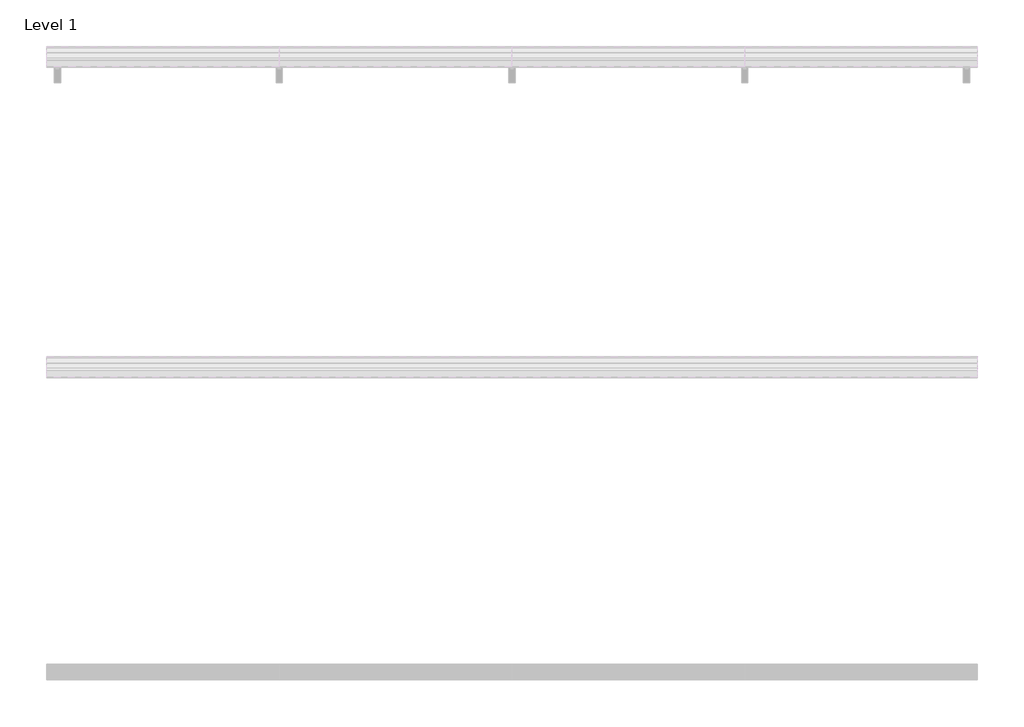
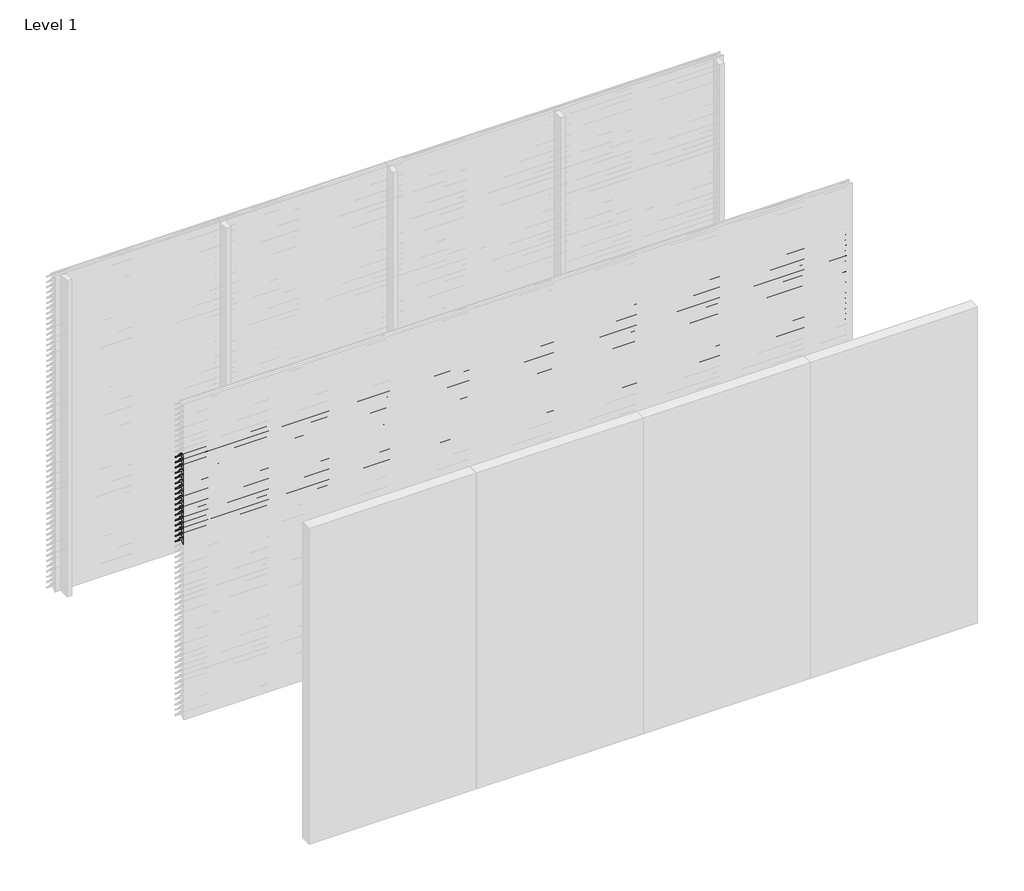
# One storey, part 55 of 173: 17 proxies.
"""IFC4 building model written with IfcOpenShell, lengths in millimetres."""

import ifcopenshell
import ifcopenshell.guid

model = None  # the IFC model being written
_history = None  # IfcOwnerHistory: only IFC2X3 demands one
_inside = {}  # id of a spatial element -> (the spatial element, [elements in it])
_under = {}  # id of a project, library or spatial element -> (it, [spatial elements below it])
_declared = {}  # id of a project -> (the project, [libraries it declares])
_typed = {}  # id of a type object -> (the type object, [elements of that type])
_made_of = {}  # id of a material, layer set ... -> (it, [elements and type objects made of it])


def new_model(schema):
    """Start an empty IFC model of exactly this schema.

    Asked for "IFC4X3", IfcOpenShell would pick the latest addendum, in which some entities
    have other attributes; the version numbers below select the first issue.
    IFC2X3 requires an IfcOwnerHistory on every rooted entity: one is made here for all.
    """
    global model, _history
    if schema == "IFC4X3":
        model = ifcopenshell.file(schema_version=(4, 3, 0, 0))
    else:
        model = ifcopenshell.file(schema=schema)
    _inside.clear()
    _under.clear()
    _declared.clear()
    _typed.clear()
    _made_of.clear()
    _history = None
    if model.schema == "IFC2X3":
        org = make("IfcOrganization", Name="unknown")
        user = make(
            "IfcPersonAndOrganization",
            ThePerson=make("IfcPerson", FamilyName="unknown"),
            TheOrganization=org,
        )
        app = make(
            "IfcApplication",
            ApplicationDeveloper=org,
            Version="unknown",
            ApplicationFullName="unknown",
            ApplicationIdentifier="unknown",
        )
        _history = make(
            "IfcOwnerHistory",
            OwningUser=user,
            OwningApplication=app,
            ChangeAction="ADDED",
            CreationDate=0,
        )
    return model


def make(cls, **values):
    """One entity of the class cls with the attributes given. An attribute that is None is left unset."""
    return model.create_entity(
        cls, **{name: value for name, value in values.items() if value is not None}
    )


def rooted(cls, **values):
    """An entity with a GlobalId (a new one), such as an element, a storey or a relation."""
    return make(cls, GlobalId=ifcopenshell.guid.new(), OwnerHistory=_history, **values)


def si_unit(unit_type, name, prefix=None):
    """IfcSIUnit, for example si_unit("LENGTHUNIT", "METRE", prefix="MILLI")."""
    return make("IfcSIUnit", UnitType=unit_type, Prefix=prefix, Name=name)


def assignment(units):
    """IfcUnitAssignment: the units of a project."""
    return None if units is None else make("IfcUnitAssignment", Units=units)


def point(xyz):
    """IfcCartesianPoint."""
    return None if xyz is None else make("IfcCartesianPoint", Coordinates=xyz)


def direction(xyz):
    """IfcDirection."""
    return None if xyz is None else make("IfcDirection", DirectionRatios=xyz)


def frame(location, z_axis=None, x_axis=None):
    """IfcAxis2Placement3D, a coordinate frame: its origin and axes. An axis left out is left unset."""
    return make(
        "IfcAxis2Placement3D",
        Location=point(location),
        Axis=direction(z_axis),
        RefDirection=direction(x_axis),
    )


def frame_2d(location, x_axis=None):
    """IfcAxis2Placement2D, a coordinate frame in the plane: its origin and x axis."""
    return make(
        "IfcAxis2Placement2D", Location=point(location), RefDirection=direction(x_axis)
    )


def origin():
    """The frame at (0, 0, 0) with its axes left unset."""
    return frame((0.0, 0.0, 0.0))


def place(relative_to, where):
    """IfcLocalPlacement: puts the frame where relative to a parent placement (None: the world)."""
    return make(
        "IfcLocalPlacement", PlacementRelTo=relative_to, RelativePlacement=where
    )


def context(
    kind, dimensions, precision=None, world=None, true_north=None, identifier=None
):
    """IfcGeometricRepresentationContext, for example the 3D "Model" context."""
    return make(
        "IfcGeometricRepresentationContext",
        ContextIdentifier=identifier,
        ContextType=kind,
        CoordinateSpaceDimension=dimensions,
        Precision=precision,
        WorldCoordinateSystem=world,
        TrueNorth=true_north,
    )


def project(units=None, contexts=None):
    """IfcProject with its units and contexts."""
    return rooted(
        "IfcProject",
        Name="project",
        RepresentationContexts=contexts,
        UnitsInContext=assignment(units),
    )


def spatial(cls, under=None, at=None, **own):
    """A site, building, storey or space (cls), placed at a placement, below another one or the project."""
    s = rooted(cls, ObjectPlacement=at, **own)
    if under is not None:
        _under.setdefault(under.id(), (under, []))[1].append(s)
    return s


def polyline(points):
    """IfcPolyline through the points."""
    return make("IfcPolyline", Points=[point(p) for p in points])


def circle_curve(where, radius):
    """IfcCircle in the frame where."""
    return make("IfcCircle", Position=where, Radius=radius)


def trimmed(basis, trim1, trim2, sense, master):
    """IfcTrimmedCurve: the piece of a basis curve between two trims."""
    return make(
        "IfcTrimmedCurve",
        BasisCurve=basis,
        Trim1=trim1,
        Trim2=trim2,
        SenseAgreement=sense,
        MasterRepresentation=master,
    )


def segment(curve, same_sense, transition):
    """IfcCompositeCurveSegment."""
    return make(
        "IfcCompositeCurveSegment",
        Transition=transition,
        SameSense=same_sense,
        ParentCurve=curve,
    )


def composite_curve(segments, self_intersect=None):
    """IfcCompositeCurve: segments joined end to end."""
    return make("IfcCompositeCurve", Segments=segments, SelfIntersect=self_intersect)


def outline(outer, holes=None, kind="AREA"):
    """IfcArbitraryClosedProfileDef: a profile drawn as a closed curve; with holes, ...WithVoids."""
    if holes is None:
        return make("IfcArbitraryClosedProfileDef", ProfileType=kind, OuterCurve=outer)
    return make(
        "IfcArbitraryProfileDefWithVoids",
        ProfileType=kind,
        OuterCurve=outer,
        InnerCurves=holes,
    )


def extrude(swept, where, along, depth):
    """IfcExtrudedAreaSolid: the profile swept, set in the frame where, extruded along a direction by depth."""
    return make(
        "IfcExtrudedAreaSolid",
        SweptArea=swept,
        Position=where,
        ExtrudedDirection=direction(along),
        Depth=depth,
    )


def shape(context_of_items, identifier, shape_type, items):
    """IfcShapeRepresentation: the items that make up one representation, for example the "Body"."""
    return make(
        "IfcShapeRepresentation",
        ContextOfItems=context_of_items,
        RepresentationIdentifier=identifier,
        RepresentationType=shape_type,
        Items=items,
    )


def made_of(thing, what):
    """Note that an element or type object is made of a material, layer set ...; save() writes the relation."""
    if what is not None:
        _made_of.setdefault(what.id(), (what, []))[1].append(thing)
    return thing


def element(
    cls,
    number,
    at=None,
    inside=None,
    cuts=None,
    type_object=None,
    material=None,
    context=None,
    identifier="Body",
    shape_type=None,
    held_by="IfcProductDefinitionShape",
    body=None,
    shapes=None,
    **own,
):
    """One element of the class cls, such as IfcWall. Its Tag is "e" and its number.

    at: its placement. inside: the storey or other place that contains it. cuts: it is an
    opening in that element (IfcRelVoidsElement). A single representation is given by context,
    identifier, shape_type and body (its items); several are given by shapes. held_by: the class
    of the entity that holds the representations. save() writes the other relations.
    """
    e = rooted(cls, Tag="e%d" % number, ObjectPlacement=at, **own)
    if body is not None:
        shapes = [shape(context, identifier, shape_type, body)]
    if shapes is not None:
        e.Representation = make(held_by, Representations=shapes)
    if inside is not None:
        _inside.setdefault(inside.id(), (inside, []))[1].append(e)
    if cuts is not None:
        rooted(
            "IfcRelVoidsElement", RelatingBuildingElement=cuts, RelatedOpeningElement=e
        )
    if type_object is not None:
        _typed.setdefault(type_object.id(), (type_object, []))[1].append(e)
    return made_of(e, material)


def aggregate(whole, parts):
    """IfcRelAggregates: a whole, such as a stair, and the parts it consists of."""
    return rooted("IfcRelAggregates", RelatingObject=whole, RelatedObjects=parts)


def save(model, path):
    """Write the relations noted so far, then the file.

    IfcRelAggregates (storeys below a building ...), IfcRelContainedInSpatialStructure (elements
    in a storey), IfcRelDefinesByType, IfcRelAssociatesMaterial and IfcRelDeclares: one each for
    every whole, place, type object, material and project.
    """
    for whole, parts in _under.values():
        aggregate(whole, parts)
    for where, things in _inside.values():
        rooted(
            "IfcRelContainedInSpatialStructure",
            RelatedElements=things,
            RelatingStructure=where,
        )
    for kind, things in _typed.values():
        rooted("IfcRelDefinesByType", RelatedObjects=things, RelatingType=kind)
    for what, things in _made_of.values():
        rooted("IfcRelAssociatesMaterial", RelatedObjects=things, RelatingMaterial=what)
    for by, libraries in _declared.values():
        rooted("IfcRelDeclares", RelatingContext=by, RelatedDefinitions=libraries)
    model.write(path)


model = new_model("IFC4")

# Units and contexts
model_context = context("Model", 3, world=origin())
ifc_project = project(units=[si_unit("LENGTHUNIT", "METRE", prefix="MILLI")], contexts=[model_context])

# Site, building, storey
site = spatial("IfcSite", under=ifc_project)
building = spatial("IfcBuilding", under=site)
storey = spatial("IfcBuildingStorey", under=building, Name="Level 1", Elevation=0.0)

# Proxies
placement = place(None, origin())
element("IfcBuildingElementProxy", 1, Name="Wall Sweeps", at=placement, inside=storey, context=model_context, shape_type="SweptSolid", body=[
    extrude(outline(composite_curve([segment(polyline([(-37998.0, 2459.1474905), (-37998.0, 2461.6227417)]), True, "CONTINUOUS"), segment(trimmed(circle_curve(frame_2d((-37951.2682172, 2416.2200208)), 65.1557103), [point((-37998.0, 2461.6227417))], [point((-37954.4014323, 2481.3003524))], False, "CARTESIAN"), True, "CONTINUOUS"), segment(polyline([(-37954.4014323, 2481.3003524), (-37934.8315836, 2481.3003524)]), True, "CONTINUOUS"), segment(trimmed(circle_curve(frame_2d((-37732.7329489, 2628.5533172)), 250.0545817), [point((-37934.8315836, 2481.3003524))], [point((-37941.4452143, 2490.8344583))], False, "CARTESIAN"), True, "CONTINUOUS"), segment(trimmed(circle_curve(frame_2d((-37953.2981792, 2485.1737835)), 13.1352966), [point((-37941.4452143, 2490.8344583))], [point((-37953.8171475, 2498.298824))], True, "CARTESIAN"), True, "CONTINUOUS"), segment(polyline([(-37953.8171475, 2498.298824), (-37953.8171475, 2500.0)]), True, "CONTINUOUS"), segment(trimmed(circle_curve(frame_2d((-37953.2981792, 2485.1737835)), 14.8352966), [point((-37953.8171475, 2500.0))], [point((-37939.9637661, 2491.6760487))], False, "CARTESIAN"), True, "CONTINUOUS"), segment(trimmed(circle_curve(frame_2d((-37732.7329489, 2628.5533172)), 248.3545817), [point((-37939.9637661, 2491.6760487))], [point((-37873.8787895, 2424.2059416))], True, "CARTESIAN"), True, "CONTINUOUS"), segment(trimmed(circle_curve(frame_2d((-37883.8147537, 2411.6649442)), 16.0), [point((-37873.8787895, 2424.2059416))], [point((-37867.8648347, 2410.4))], False, "CARTESIAN"), True, "CONTINUOUS"), segment(polyline([(-37867.8648347, 2410.4), (-37869.6712069, 2410.4)]), True, "CONTINUOUS"), segment(trimmed(circle_curve(frame_2d((-37883.8147537, 2411.6649442)), 14.2), [point((-37869.6712069, 2410.4))], [point((-37874.9518628, 2422.7594998))], True, "CARTESIAN"), True, "CONTINUOUS"), segment(trimmed(circle_curve(frame_2d((-37732.7329489, 2628.5533172)), 250.1545817), [point((-37874.9518628, 2422.7594998))], [point((-37933.7064024, 2479.6003524))], False, "CARTESIAN"), True, "CONTINUOUS"), segment(polyline([(-37933.7064024, 2479.6003524), (-37954.3602632, 2479.6003524)]), True, "CONTINUOUS"), segment(trimmed(circle_curve(frame_2d((-37951.2682172, 2416.2200208)), 63.4557103), [point((-37954.3602632, 2479.6003524))], [point((-37998.0, 2459.1474905))], True, "CARTESIAN"), True, "CONTINUOUS")], self_intersect=False)), frame((0.0, 0.0, 0.0), z_axis=(1.0, 0.0, 0.0), x_axis=(0.0, 1.0, 0.0)), (0.0, 0.0, 1.0), 6000.0),
])
element("IfcBuildingElementProxy", 2, Name="Wall Sweeps", at=placement, inside=storey, context=model_context, shape_type="SweptSolid", body=[
    extrude(outline(composite_curve([segment(polyline([(-37998.0, 2409.1474905), (-37998.0, 2411.6227417)]), True, "CONTINUOUS"), segment(trimmed(circle_curve(frame_2d((-37951.2682172, 2366.2200208)), 65.1557103), [point((-37998.0, 2411.6227417))], [point((-37954.4014323, 2431.3003524))], False, "CARTESIAN"), True, "CONTINUOUS"), segment(polyline([(-37954.4014323, 2431.3003524), (-37934.8315836, 2431.3003524)]), True, "CONTINUOUS"), segment(trimmed(circle_curve(frame_2d((-37732.7329489, 2578.5533172)), 250.0545817), [point((-37934.8315836, 2431.3003524))], [point((-37941.4452143, 2440.8344583))], False, "CARTESIAN"), True, "CONTINUOUS"), segment(trimmed(circle_curve(frame_2d((-37953.2981792, 2435.1737835)), 13.1352966), [point((-37941.4452143, 2440.8344583))], [point((-37953.8171475, 2448.298824))], True, "CARTESIAN"), True, "CONTINUOUS"), segment(polyline([(-37953.8171475, 2448.298824), (-37953.8171475, 2450.0)]), True, "CONTINUOUS"), segment(trimmed(circle_curve(frame_2d((-37953.2981792, 2435.1737835)), 14.8352966), [point((-37953.8171475, 2450.0))], [point((-37939.9637661, 2441.6760487))], False, "CARTESIAN"), True, "CONTINUOUS"), segment(trimmed(circle_curve(frame_2d((-37732.7329489, 2578.5533172)), 248.3545817), [point((-37939.9637661, 2441.6760487))], [point((-37873.8787895, 2374.2059416))], True, "CARTESIAN"), True, "CONTINUOUS"), segment(trimmed(circle_curve(frame_2d((-37883.8147537, 2361.6649442)), 16.0), [point((-37873.8787895, 2374.2059416))], [point((-37867.8648347, 2360.4))], False, "CARTESIAN"), True, "CONTINUOUS"), segment(polyline([(-37867.8648347, 2360.4), (-37869.6712069, 2360.4)]), True, "CONTINUOUS"), segment(trimmed(circle_curve(frame_2d((-37883.8147537, 2361.6649442)), 14.2), [point((-37869.6712069, 2360.4))], [point((-37874.9518628, 2372.7594998))], True, "CARTESIAN"), True, "CONTINUOUS"), segment(trimmed(circle_curve(frame_2d((-37732.7329489, 2578.5533172)), 250.1545817), [point((-37874.9518628, 2372.7594998))], [point((-37933.7064024, 2429.6003524))], False, "CARTESIAN"), True, "CONTINUOUS"), segment(polyline([(-37933.7064024, 2429.6003524), (-37954.3602632, 2429.6003524)]), True, "CONTINUOUS"), segment(trimmed(circle_curve(frame_2d((-37951.2682172, 2366.2200208)), 63.4557103), [point((-37954.3602632, 2429.6003524))], [point((-37998.0, 2409.1474905))], True, "CARTESIAN"), True, "CONTINUOUS")], self_intersect=False)), frame((0.0, 0.0, 0.0), z_axis=(1.0, 0.0, 0.0), x_axis=(0.0, 1.0, 0.0)), (0.0, 0.0, 1.0), 6000.0),
])
element("IfcBuildingElementProxy", 3, Name="Wall Sweeps", at=placement, inside=storey, context=model_context, shape_type="SweptSolid", body=[
    extrude(outline(composite_curve([segment(polyline([(-37998.0, 2359.1474905), (-37998.0, 2361.6227417)]), True, "CONTINUOUS"), segment(trimmed(circle_curve(frame_2d((-37951.2682172, 2316.2200208)), 65.1557103), [point((-37998.0, 2361.6227417))], [point((-37954.4014323, 2381.3003524))], False, "CARTESIAN"), True, "CONTINUOUS"), segment(polyline([(-37954.4014323, 2381.3003524), (-37934.8315836, 2381.3003524)]), True, "CONTINUOUS"), segment(trimmed(circle_curve(frame_2d((-37732.7329489, 2528.5533172)), 250.0545817), [point((-37934.8315836, 2381.3003524))], [point((-37941.4452143, 2390.8344583))], False, "CARTESIAN"), True, "CONTINUOUS"), segment(trimmed(circle_curve(frame_2d((-37953.2981792, 2385.1737835)), 13.1352966), [point((-37941.4452143, 2390.8344583))], [point((-37953.8171475, 2398.298824))], True, "CARTESIAN"), True, "CONTINUOUS"), segment(polyline([(-37953.8171475, 2398.298824), (-37953.8171475, 2400.0)]), True, "CONTINUOUS"), segment(trimmed(circle_curve(frame_2d((-37953.2981792, 2385.1737835)), 14.8352966), [point((-37953.8171475, 2400.0))], [point((-37939.9637661, 2391.6760487))], False, "CARTESIAN"), True, "CONTINUOUS"), segment(trimmed(circle_curve(frame_2d((-37732.7329489, 2528.5533172)), 248.3545817), [point((-37939.9637661, 2391.6760487))], [point((-37873.8787895, 2324.2059416))], True, "CARTESIAN"), True, "CONTINUOUS"), segment(trimmed(circle_curve(frame_2d((-37883.8147537, 2311.6649442)), 16.0), [point((-37873.8787895, 2324.2059416))], [point((-37867.8648347, 2310.4))], False, "CARTESIAN"), True, "CONTINUOUS"), segment(polyline([(-37867.8648347, 2310.4), (-37869.6712069, 2310.4)]), True, "CONTINUOUS"), segment(trimmed(circle_curve(frame_2d((-37883.8147537, 2311.6649442)), 14.2), [point((-37869.6712069, 2310.4))], [point((-37874.9518628, 2322.7594998))], True, "CARTESIAN"), True, "CONTINUOUS"), segment(trimmed(circle_curve(frame_2d((-37732.7329489, 2528.5533172)), 250.1545817), [point((-37874.9518628, 2322.7594998))], [point((-37933.7064024, 2379.6003524))], False, "CARTESIAN"), True, "CONTINUOUS"), segment(polyline([(-37933.7064024, 2379.6003524), (-37954.3602632, 2379.6003524)]), True, "CONTINUOUS"), segment(trimmed(circle_curve(frame_2d((-37951.2682172, 2316.2200208)), 63.4557103), [point((-37954.3602632, 2379.6003524))], [point((-37998.0, 2359.1474905))], True, "CARTESIAN"), True, "CONTINUOUS")], self_intersect=False)), frame((0.0, 0.0, 0.0), z_axis=(1.0, 0.0, 0.0), x_axis=(0.0, 1.0, 0.0)), (0.0, 0.0, 1.0), 6000.0),
])
element("IfcBuildingElementProxy", 4, Name="Wall Sweeps", at=placement, inside=storey, context=model_context, shape_type="SweptSolid", body=[
    extrude(outline(composite_curve([segment(polyline([(-37998.0, 2309.1474905), (-37998.0, 2311.6227417)]), True, "CONTINUOUS"), segment(trimmed(circle_curve(frame_2d((-37951.2682172, 2266.2200208)), 65.1557103), [point((-37998.0, 2311.6227417))], [point((-37954.4014323, 2331.3003524))], False, "CARTESIAN"), True, "CONTINUOUS"), segment(polyline([(-37954.4014323, 2331.3003524), (-37934.8315836, 2331.3003524)]), True, "CONTINUOUS"), segment(trimmed(circle_curve(frame_2d((-37732.7329489, 2478.5533172)), 250.0545817), [point((-37934.8315836, 2331.3003524))], [point((-37941.4452143, 2340.8344583))], False, "CARTESIAN"), True, "CONTINUOUS"), segment(trimmed(circle_curve(frame_2d((-37953.2981792, 2335.1737835)), 13.1352966), [point((-37941.4452143, 2340.8344583))], [point((-37953.8171475, 2348.298824))], True, "CARTESIAN"), True, "CONTINUOUS"), segment(polyline([(-37953.8171475, 2348.298824), (-37953.8171475, 2350.0)]), True, "CONTINUOUS"), segment(trimmed(circle_curve(frame_2d((-37953.2981792, 2335.1737835)), 14.8352966), [point((-37953.8171475, 2350.0))], [point((-37939.9637661, 2341.6760487))], False, "CARTESIAN"), True, "CONTINUOUS"), segment(trimmed(circle_curve(frame_2d((-37732.7329489, 2478.5533172)), 248.3545817), [point((-37939.9637661, 2341.6760487))], [point((-37873.8787895, 2274.2059416))], True, "CARTESIAN"), True, "CONTINUOUS"), segment(trimmed(circle_curve(frame_2d((-37883.8147537, 2261.6649442)), 16.0), [point((-37873.8787895, 2274.2059416))], [point((-37867.8648347, 2260.4))], False, "CARTESIAN"), True, "CONTINUOUS"), segment(polyline([(-37867.8648347, 2260.4), (-37869.6712069, 2260.4)]), True, "CONTINUOUS"), segment(trimmed(circle_curve(frame_2d((-37883.8147537, 2261.6649442)), 14.2), [point((-37869.6712069, 2260.4))], [point((-37874.9518628, 2272.7594998))], True, "CARTESIAN"), True, "CONTINUOUS"), segment(trimmed(circle_curve(frame_2d((-37732.7329489, 2478.5533172)), 250.1545817), [point((-37874.9518628, 2272.7594998))], [point((-37933.7064024, 2329.6003524))], False, "CARTESIAN"), True, "CONTINUOUS"), segment(polyline([(-37933.7064024, 2329.6003524), (-37954.3602632, 2329.6003524)]), True, "CONTINUOUS"), segment(trimmed(circle_curve(frame_2d((-37951.2682172, 2266.2200208)), 63.4557103), [point((-37954.3602632, 2329.6003524))], [point((-37998.0, 2309.1474905))], True, "CARTESIAN"), True, "CONTINUOUS")], self_intersect=False)), frame((0.0, 0.0, 0.0), z_axis=(1.0, 0.0, 0.0), x_axis=(0.0, 1.0, 0.0)), (0.0, 0.0, 1.0), 6000.0),
])
element("IfcBuildingElementProxy", 5, Name="Wall Sweeps", at=placement, inside=storey, context=model_context, shape_type="SweptSolid", body=[
    extrude(outline(composite_curve([segment(polyline([(-37998.0, 2259.1474905), (-37998.0, 2261.6227417)]), True, "CONTINUOUS"), segment(trimmed(circle_curve(frame_2d((-37951.2682172, 2216.2200208)), 65.1557103), [point((-37998.0, 2261.6227417))], [point((-37954.4014323, 2281.3003524))], False, "CARTESIAN"), True, "CONTINUOUS"), segment(polyline([(-37954.4014323, 2281.3003524), (-37934.8315836, 2281.3003524)]), True, "CONTINUOUS"), segment(trimmed(circle_curve(frame_2d((-37732.7329489, 2428.5533172)), 250.0545817), [point((-37934.8315836, 2281.3003524))], [point((-37941.4452143, 2290.8344583))], False, "CARTESIAN"), True, "CONTINUOUS"), segment(trimmed(circle_curve(frame_2d((-37953.2981792, 2285.1737835)), 13.1352966), [point((-37941.4452143, 2290.8344583))], [point((-37953.8171475, 2298.298824))], True, "CARTESIAN"), True, "CONTINUOUS"), segment(polyline([(-37953.8171475, 2298.298824), (-37953.8171475, 2300.0)]), True, "CONTINUOUS"), segment(trimmed(circle_curve(frame_2d((-37953.2981792, 2285.1737835)), 14.8352966), [point((-37953.8171475, 2300.0))], [point((-37939.9637661, 2291.6760487))], False, "CARTESIAN"), True, "CONTINUOUS"), segment(trimmed(circle_curve(frame_2d((-37732.7329489, 2428.5533172)), 248.3545817), [point((-37939.9637661, 2291.6760487))], [point((-37873.8787895, 2224.2059416))], True, "CARTESIAN"), True, "CONTINUOUS"), segment(trimmed(circle_curve(frame_2d((-37883.8147537, 2211.6649442)), 16.0), [point((-37873.8787895, 2224.2059416))], [point((-37867.8648347, 2210.4))], False, "CARTESIAN"), True, "CONTINUOUS"), segment(polyline([(-37867.8648347, 2210.4), (-37869.6712069, 2210.4)]), True, "CONTINUOUS"), segment(trimmed(circle_curve(frame_2d((-37883.8147537, 2211.6649442)), 14.2), [point((-37869.6712069, 2210.4))], [point((-37874.9518628, 2222.7594998))], True, "CARTESIAN"), True, "CONTINUOUS"), segment(trimmed(circle_curve(frame_2d((-37732.7329489, 2428.5533172)), 250.1545817), [point((-37874.9518628, 2222.7594998))], [point((-37933.7064024, 2279.6003524))], False, "CARTESIAN"), True, "CONTINUOUS"), segment(polyline([(-37933.7064024, 2279.6003524), (-37954.3602632, 2279.6003524)]), True, "CONTINUOUS"), segment(trimmed(circle_curve(frame_2d((-37951.2682172, 2216.2200208)), 63.4557103), [point((-37954.3602632, 2279.6003524))], [point((-37998.0, 2259.1474905))], True, "CARTESIAN"), True, "CONTINUOUS")], self_intersect=False)), frame((0.0, 0.0, 0.0), z_axis=(1.0, 0.0, 0.0), x_axis=(0.0, 1.0, 0.0)), (0.0, 0.0, 1.0), 6000.0),
])
element("IfcBuildingElementProxy", 6, Name="Wall Sweeps", at=placement, inside=storey, context=model_context, shape_type="SweptSolid", body=[
    extrude(outline(composite_curve([segment(polyline([(-37998.0, 2209.1474905), (-37998.0, 2211.6227417)]), True, "CONTINUOUS"), segment(trimmed(circle_curve(frame_2d((-37951.2682172, 2166.2200208)), 65.1557103), [point((-37998.0, 2211.6227417))], [point((-37954.4014323, 2231.3003524))], False, "CARTESIAN"), True, "CONTINUOUS"), segment(polyline([(-37954.4014323, 2231.3003524), (-37934.8315836, 2231.3003524)]), True, "CONTINUOUS"), segment(trimmed(circle_curve(frame_2d((-37732.7329489, 2378.5533172)), 250.0545817), [point((-37934.8315836, 2231.3003524))], [point((-37941.4452143, 2240.8344583))], False, "CARTESIAN"), True, "CONTINUOUS"), segment(trimmed(circle_curve(frame_2d((-37953.2981792, 2235.1737835)), 13.1352966), [point((-37941.4452143, 2240.8344583))], [point((-37953.8171475, 2248.298824))], True, "CARTESIAN"), True, "CONTINUOUS"), segment(polyline([(-37953.8171475, 2248.298824), (-37953.8171475, 2250.0)]), True, "CONTINUOUS"), segment(trimmed(circle_curve(frame_2d((-37953.2981792, 2235.1737835)), 14.8352966), [point((-37953.8171475, 2250.0))], [point((-37939.9637661, 2241.6760487))], False, "CARTESIAN"), True, "CONTINUOUS"), segment(trimmed(circle_curve(frame_2d((-37732.7329489, 2378.5533172)), 248.3545817), [point((-37939.9637661, 2241.6760487))], [point((-37873.8787895, 2174.2059416))], True, "CARTESIAN"), True, "CONTINUOUS"), segment(trimmed(circle_curve(frame_2d((-37883.8147537, 2161.6649442)), 16.0), [point((-37873.8787895, 2174.2059416))], [point((-37867.8648347, 2160.4))], False, "CARTESIAN"), True, "CONTINUOUS"), segment(polyline([(-37867.8648347, 2160.4), (-37869.6712069, 2160.4)]), True, "CONTINUOUS"), segment(trimmed(circle_curve(frame_2d((-37883.8147537, 2161.6649442)), 14.2), [point((-37869.6712069, 2160.4))], [point((-37874.9518628, 2172.7594998))], True, "CARTESIAN"), True, "CONTINUOUS"), segment(trimmed(circle_curve(frame_2d((-37732.7329489, 2378.5533172)), 250.1545817), [point((-37874.9518628, 2172.7594998))], [point((-37933.7064024, 2229.6003524))], False, "CARTESIAN"), True, "CONTINUOUS"), segment(polyline([(-37933.7064024, 2229.6003524), (-37954.3602632, 2229.6003524)]), True, "CONTINUOUS"), segment(trimmed(circle_curve(frame_2d((-37951.2682172, 2166.2200208)), 63.4557103), [point((-37954.3602632, 2229.6003524))], [point((-37998.0, 2209.1474905))], True, "CARTESIAN"), True, "CONTINUOUS")], self_intersect=False)), frame((0.0, 0.0, 0.0), z_axis=(1.0, 0.0, 0.0), x_axis=(0.0, 1.0, 0.0)), (0.0, 0.0, 1.0), 6000.0),
])
element("IfcBuildingElementProxy", 7, Name="Wall Sweeps", at=placement, inside=storey, context=model_context, shape_type="SweptSolid", body=[
    extrude(outline(composite_curve([segment(polyline([(-37998.0, 2159.1474905), (-37998.0, 2161.6227417)]), True, "CONTINUOUS"), segment(trimmed(circle_curve(frame_2d((-37951.2682172, 2116.2200208)), 65.1557103), [point((-37998.0, 2161.6227417))], [point((-37954.4014323, 2181.3003524))], False, "CARTESIAN"), True, "CONTINUOUS"), segment(polyline([(-37954.4014323, 2181.3003524), (-37934.8315836, 2181.3003524)]), True, "CONTINUOUS"), segment(trimmed(circle_curve(frame_2d((-37732.7329489, 2328.5533172)), 250.0545817), [point((-37934.8315836, 2181.3003524))], [point((-37941.4452143, 2190.8344583))], False, "CARTESIAN"), True, "CONTINUOUS"), segment(trimmed(circle_curve(frame_2d((-37953.2981792, 2185.1737835)), 13.1352966), [point((-37941.4452143, 2190.8344583))], [point((-37953.8171475, 2198.298824))], True, "CARTESIAN"), True, "CONTINUOUS"), segment(polyline([(-37953.8171475, 2198.298824), (-37953.8171475, 2200.0)]), True, "CONTINUOUS"), segment(trimmed(circle_curve(frame_2d((-37953.2981792, 2185.1737835)), 14.8352966), [point((-37953.8171475, 2200.0))], [point((-37939.9637661, 2191.6760487))], False, "CARTESIAN"), True, "CONTINUOUS"), segment(trimmed(circle_curve(frame_2d((-37732.7329489, 2328.5533172)), 248.3545817), [point((-37939.9637661, 2191.6760487))], [point((-37873.8787895, 2124.2059416))], True, "CARTESIAN"), True, "CONTINUOUS"), segment(trimmed(circle_curve(frame_2d((-37883.8147537, 2111.6649442)), 16.0), [point((-37873.8787895, 2124.2059416))], [point((-37867.8648347, 2110.4))], False, "CARTESIAN"), True, "CONTINUOUS"), segment(polyline([(-37867.8648347, 2110.4), (-37869.6712069, 2110.4)]), True, "CONTINUOUS"), segment(trimmed(circle_curve(frame_2d((-37883.8147537, 2111.6649442)), 14.2), [point((-37869.6712069, 2110.4))], [point((-37874.9518628, 2122.7594998))], True, "CARTESIAN"), True, "CONTINUOUS"), segment(trimmed(circle_curve(frame_2d((-37732.7329489, 2328.5533172)), 250.1545817), [point((-37874.9518628, 2122.7594998))], [point((-37933.7064024, 2179.6003524))], False, "CARTESIAN"), True, "CONTINUOUS"), segment(polyline([(-37933.7064024, 2179.6003524), (-37954.3602632, 2179.6003524)]), True, "CONTINUOUS"), segment(trimmed(circle_curve(frame_2d((-37951.2682172, 2116.2200208)), 63.4557103), [point((-37954.3602632, 2179.6003524))], [point((-37998.0, 2159.1474905))], True, "CARTESIAN"), True, "CONTINUOUS")], self_intersect=False)), frame((0.0, 0.0, 0.0), z_axis=(1.0, 0.0, 0.0), x_axis=(0.0, 1.0, 0.0)), (0.0, 0.0, 1.0), 6000.0),
])
element("IfcBuildingElementProxy", 8, Name="Wall Sweeps", at=placement, inside=storey, context=model_context, shape_type="SweptSolid", body=[
    extrude(outline(composite_curve([segment(polyline([(-37998.0, 2109.1474905), (-37998.0, 2111.6227417)]), True, "CONTINUOUS"), segment(trimmed(circle_curve(frame_2d((-37951.2682172, 2066.2200208)), 65.1557103), [point((-37998.0, 2111.6227417))], [point((-37954.4014323, 2131.3003524))], False, "CARTESIAN"), True, "CONTINUOUS"), segment(polyline([(-37954.4014323, 2131.3003524), (-37934.8315836, 2131.3003524)]), True, "CONTINUOUS"), segment(trimmed(circle_curve(frame_2d((-37732.7329489, 2278.5533172)), 250.0545817), [point((-37934.8315836, 2131.3003524))], [point((-37941.4452143, 2140.8344583))], False, "CARTESIAN"), True, "CONTINUOUS"), segment(trimmed(circle_curve(frame_2d((-37953.2981792, 2135.1737835)), 13.1352966), [point((-37941.4452143, 2140.8344583))], [point((-37953.8171475, 2148.298824))], True, "CARTESIAN"), True, "CONTINUOUS"), segment(polyline([(-37953.8171475, 2148.298824), (-37953.8171475, 2150.0)]), True, "CONTINUOUS"), segment(trimmed(circle_curve(frame_2d((-37953.2981792, 2135.1737835)), 14.8352966), [point((-37953.8171475, 2150.0))], [point((-37939.9637661, 2141.6760487))], False, "CARTESIAN"), True, "CONTINUOUS"), segment(trimmed(circle_curve(frame_2d((-37732.7329489, 2278.5533172)), 248.3545817), [point((-37939.9637661, 2141.6760487))], [point((-37873.8787895, 2074.2059416))], True, "CARTESIAN"), True, "CONTINUOUS"), segment(trimmed(circle_curve(frame_2d((-37883.8147537, 2061.6649442)), 16.0), [point((-37873.8787895, 2074.2059416))], [point((-37867.8648347, 2060.4))], False, "CARTESIAN"), True, "CONTINUOUS"), segment(polyline([(-37867.8648347, 2060.4), (-37869.6712069, 2060.4)]), True, "CONTINUOUS"), segment(trimmed(circle_curve(frame_2d((-37883.8147537, 2061.6649442)), 14.2), [point((-37869.6712069, 2060.4))], [point((-37874.9518628, 2072.7594998))], True, "CARTESIAN"), True, "CONTINUOUS"), segment(trimmed(circle_curve(frame_2d((-37732.7329489, 2278.5533172)), 250.1545817), [point((-37874.9518628, 2072.7594998))], [point((-37933.7064024, 2129.6003524))], False, "CARTESIAN"), True, "CONTINUOUS"), segment(polyline([(-37933.7064024, 2129.6003524), (-37954.3602632, 2129.6003524)]), True, "CONTINUOUS"), segment(trimmed(circle_curve(frame_2d((-37951.2682172, 2066.2200208)), 63.4557103), [point((-37954.3602632, 2129.6003524))], [point((-37998.0, 2109.1474905))], True, "CARTESIAN"), True, "CONTINUOUS")], self_intersect=False)), frame((0.0, 0.0, 0.0), z_axis=(1.0, 0.0, 0.0), x_axis=(0.0, 1.0, 0.0)), (0.0, 0.0, 1.0), 6000.0),
])
element("IfcBuildingElementProxy", 9, Name="Wall Sweeps", at=placement, inside=storey, context=model_context, shape_type="SweptSolid", body=[
    extrude(outline(composite_curve([segment(polyline([(-37998.0, 2059.1474905), (-37998.0, 2061.6227417)]), True, "CONTINUOUS"), segment(trimmed(circle_curve(frame_2d((-37951.2682172, 2016.2200208)), 65.1557103), [point((-37998.0, 2061.6227417))], [point((-37954.4014323, 2081.3003524))], False, "CARTESIAN"), True, "CONTINUOUS"), segment(polyline([(-37954.4014323, 2081.3003524), (-37934.8315836, 2081.3003524)]), True, "CONTINUOUS"), segment(trimmed(circle_curve(frame_2d((-37732.7329489, 2228.5533172)), 250.0545817), [point((-37934.8315836, 2081.3003524))], [point((-37941.4452143, 2090.8344583))], False, "CARTESIAN"), True, "CONTINUOUS"), segment(trimmed(circle_curve(frame_2d((-37953.2981792, 2085.1737835)), 13.1352966), [point((-37941.4452143, 2090.8344583))], [point((-37953.8171475, 2098.298824))], True, "CARTESIAN"), True, "CONTINUOUS"), segment(polyline([(-37953.8171475, 2098.298824), (-37953.8171475, 2100.0)]), True, "CONTINUOUS"), segment(trimmed(circle_curve(frame_2d((-37953.2981792, 2085.1737835)), 14.8352966), [point((-37953.8171475, 2100.0))], [point((-37939.9637661, 2091.6760487))], False, "CARTESIAN"), True, "CONTINUOUS"), segment(trimmed(circle_curve(frame_2d((-37732.7329489, 2228.5533172)), 248.3545817), [point((-37939.9637661, 2091.6760487))], [point((-37873.8787895, 2024.2059416))], True, "CARTESIAN"), True, "CONTINUOUS"), segment(trimmed(circle_curve(frame_2d((-37883.8147537, 2011.6649442)), 16.0), [point((-37873.8787895, 2024.2059416))], [point((-37867.8648347, 2010.4))], False, "CARTESIAN"), True, "CONTINUOUS"), segment(polyline([(-37867.8648347, 2010.4), (-37869.6712069, 2010.4)]), True, "CONTINUOUS"), segment(trimmed(circle_curve(frame_2d((-37883.8147537, 2011.6649442)), 14.2), [point((-37869.6712069, 2010.4))], [point((-37874.9518628, 2022.7594998))], True, "CARTESIAN"), True, "CONTINUOUS"), segment(trimmed(circle_curve(frame_2d((-37732.7329489, 2228.5533172)), 250.1545817), [point((-37874.9518628, 2022.7594998))], [point((-37933.7064024, 2079.6003524))], False, "CARTESIAN"), True, "CONTINUOUS"), segment(polyline([(-37933.7064024, 2079.6003524), (-37954.3602632, 2079.6003524)]), True, "CONTINUOUS"), segment(trimmed(circle_curve(frame_2d((-37951.2682172, 2016.2200208)), 63.4557103), [point((-37954.3602632, 2079.6003524))], [point((-37998.0, 2059.1474905))], True, "CARTESIAN"), True, "CONTINUOUS")], self_intersect=False)), frame((0.0, 0.0, 0.0), z_axis=(1.0, 0.0, 0.0), x_axis=(0.0, 1.0, 0.0)), (0.0, 0.0, 1.0), 6000.0),
])
element("IfcBuildingElementProxy", 10, Name="Wall Sweeps", at=placement, inside=storey, context=model_context, shape_type="SweptSolid", body=[
    extrude(outline(composite_curve([segment(polyline([(-37998.0, 2009.1474905), (-37998.0, 2011.6227417)]), True, "CONTINUOUS"), segment(trimmed(circle_curve(frame_2d((-37951.2682172, 1966.2200208)), 65.1557103), [point((-37998.0, 2011.6227417))], [point((-37954.4014323, 2031.3003524))], False, "CARTESIAN"), True, "CONTINUOUS"), segment(polyline([(-37954.4014323, 2031.3003524), (-37934.8315836, 2031.3003524)]), True, "CONTINUOUS"), segment(trimmed(circle_curve(frame_2d((-37732.7329489, 2178.5533172)), 250.0545817), [point((-37934.8315836, 2031.3003524))], [point((-37941.4452143, 2040.8344583))], False, "CARTESIAN"), True, "CONTINUOUS"), segment(trimmed(circle_curve(frame_2d((-37953.2981792, 2035.1737835)), 13.1352966), [point((-37941.4452143, 2040.8344583))], [point((-37953.8171475, 2048.298824))], True, "CARTESIAN"), True, "CONTINUOUS"), segment(polyline([(-37953.8171475, 2048.298824), (-37953.8171475, 2050.0)]), True, "CONTINUOUS"), segment(trimmed(circle_curve(frame_2d((-37953.2981792, 2035.1737835)), 14.8352966), [point((-37953.8171475, 2050.0))], [point((-37939.9637661, 2041.6760487))], False, "CARTESIAN"), True, "CONTINUOUS"), segment(trimmed(circle_curve(frame_2d((-37732.7329489, 2178.5533172)), 248.3545817), [point((-37939.9637661, 2041.6760487))], [point((-37873.8787895, 1974.2059416))], True, "CARTESIAN"), True, "CONTINUOUS"), segment(trimmed(circle_curve(frame_2d((-37883.8147537, 1961.6649442)), 16.0), [point((-37873.8787895, 1974.2059416))], [point((-37867.8648347, 1960.4))], False, "CARTESIAN"), True, "CONTINUOUS"), segment(polyline([(-37867.8648347, 1960.4), (-37869.6712069, 1960.4)]), True, "CONTINUOUS"), segment(trimmed(circle_curve(frame_2d((-37883.8147537, 1961.6649442)), 14.2), [point((-37869.6712069, 1960.4))], [point((-37874.9518628, 1972.7594998))], True, "CARTESIAN"), True, "CONTINUOUS"), segment(trimmed(circle_curve(frame_2d((-37732.7329489, 2178.5533172)), 250.1545817), [point((-37874.9518628, 1972.7594998))], [point((-37933.7064024, 2029.6003524))], False, "CARTESIAN"), True, "CONTINUOUS"), segment(polyline([(-37933.7064024, 2029.6003524), (-37954.3602632, 2029.6003524)]), True, "CONTINUOUS"), segment(trimmed(circle_curve(frame_2d((-37951.2682172, 1966.2200208)), 63.4557103), [point((-37954.3602632, 2029.6003524))], [point((-37998.0, 2009.1474905))], True, "CARTESIAN"), True, "CONTINUOUS")], self_intersect=False)), frame((0.0, 0.0, 0.0), z_axis=(1.0, 0.0, 0.0), x_axis=(0.0, 1.0, 0.0)), (0.0, 0.0, 1.0), 6000.0),
])
element("IfcBuildingElementProxy", 11, Name="Wall Sweeps", at=placement, inside=storey, context=model_context, shape_type="SweptSolid", body=[
    extrude(outline(composite_curve([segment(polyline([(-37998.0, 1959.1474905), (-37998.0, 1961.6227417)]), True, "CONTINUOUS"), segment(trimmed(circle_curve(frame_2d((-37951.2682172, 1916.2200208)), 65.1557103), [point((-37998.0, 1961.6227417))], [point((-37954.4014323, 1981.3003524))], False, "CARTESIAN"), True, "CONTINUOUS"), segment(polyline([(-37954.4014323, 1981.3003524), (-37934.8315836, 1981.3003524)]), True, "CONTINUOUS"), segment(trimmed(circle_curve(frame_2d((-37732.7329489, 2128.5533172)), 250.0545817), [point((-37934.8315836, 1981.3003524))], [point((-37941.4452143, 1990.8344583))], False, "CARTESIAN"), True, "CONTINUOUS"), segment(trimmed(circle_curve(frame_2d((-37953.2981792, 1985.1737835)), 13.1352966), [point((-37941.4452143, 1990.8344583))], [point((-37953.8171475, 1998.298824))], True, "CARTESIAN"), True, "CONTINUOUS"), segment(polyline([(-37953.8171475, 1998.298824), (-37953.8171475, 2000.0)]), True, "CONTINUOUS"), segment(trimmed(circle_curve(frame_2d((-37953.2981792, 1985.1737835)), 14.8352966), [point((-37953.8171475, 2000.0))], [point((-37939.9637661, 1991.6760487))], False, "CARTESIAN"), True, "CONTINUOUS"), segment(trimmed(circle_curve(frame_2d((-37732.7329489, 2128.5533172)), 248.3545817), [point((-37939.9637661, 1991.6760487))], [point((-37873.8787895, 1924.2059416))], True, "CARTESIAN"), True, "CONTINUOUS"), segment(trimmed(circle_curve(frame_2d((-37883.8147537, 1911.6649442)), 16.0), [point((-37873.8787895, 1924.2059416))], [point((-37867.8648347, 1910.4))], False, "CARTESIAN"), True, "CONTINUOUS"), segment(polyline([(-37867.8648347, 1910.4), (-37869.6712069, 1910.4)]), True, "CONTINUOUS"), segment(trimmed(circle_curve(frame_2d((-37883.8147537, 1911.6649442)), 14.2), [point((-37869.6712069, 1910.4))], [point((-37874.9518628, 1922.7594998))], True, "CARTESIAN"), True, "CONTINUOUS"), segment(trimmed(circle_curve(frame_2d((-37732.7329489, 2128.5533172)), 250.1545817), [point((-37874.9518628, 1922.7594998))], [point((-37933.7064024, 1979.6003524))], False, "CARTESIAN"), True, "CONTINUOUS"), segment(polyline([(-37933.7064024, 1979.6003524), (-37954.3602632, 1979.6003524)]), True, "CONTINUOUS"), segment(trimmed(circle_curve(frame_2d((-37951.2682172, 1916.2200208)), 63.4557103), [point((-37954.3602632, 1979.6003524))], [point((-37998.0, 1959.1474905))], True, "CARTESIAN"), True, "CONTINUOUS")], self_intersect=False)), frame((0.0, 0.0, 0.0), z_axis=(1.0, 0.0, 0.0), x_axis=(0.0, 1.0, 0.0)), (0.0, 0.0, 1.0), 6000.0),
])
element("IfcBuildingElementProxy", 12, Name="Wall Sweeps", at=placement, inside=storey, context=model_context, shape_type="SweptSolid", body=[
    extrude(outline(composite_curve([segment(polyline([(-37998.0, 1909.1474905), (-37998.0, 1911.6227417)]), True, "CONTINUOUS"), segment(trimmed(circle_curve(frame_2d((-37951.2682172, 1866.2200208)), 65.1557103), [point((-37998.0, 1911.6227417))], [point((-37954.4014323, 1931.3003524))], False, "CARTESIAN"), True, "CONTINUOUS"), segment(polyline([(-37954.4014323, 1931.3003524), (-37934.8315836, 1931.3003524)]), True, "CONTINUOUS"), segment(trimmed(circle_curve(frame_2d((-37732.7329489, 2078.5533172)), 250.0545817), [point((-37934.8315836, 1931.3003524))], [point((-37941.4452143, 1940.8344583))], False, "CARTESIAN"), True, "CONTINUOUS"), segment(trimmed(circle_curve(frame_2d((-37953.2981792, 1935.1737835)), 13.1352966), [point((-37941.4452143, 1940.8344583))], [point((-37953.8171475, 1948.298824))], True, "CARTESIAN"), True, "CONTINUOUS"), segment(polyline([(-37953.8171475, 1948.298824), (-37953.8171475, 1950.0)]), True, "CONTINUOUS"), segment(trimmed(circle_curve(frame_2d((-37953.2981792, 1935.1737835)), 14.8352966), [point((-37953.8171475, 1950.0))], [point((-37939.9637661, 1941.6760487))], False, "CARTESIAN"), True, "CONTINUOUS"), segment(trimmed(circle_curve(frame_2d((-37732.7329489, 2078.5533172)), 248.3545817), [point((-37939.9637661, 1941.6760487))], [point((-37873.8787895, 1874.2059416))], True, "CARTESIAN"), True, "CONTINUOUS"), segment(trimmed(circle_curve(frame_2d((-37883.8147537, 1861.6649442)), 16.0), [point((-37873.8787895, 1874.2059416))], [point((-37867.8648347, 1860.4))], False, "CARTESIAN"), True, "CONTINUOUS"), segment(polyline([(-37867.8648347, 1860.4), (-37869.6712069, 1860.4)]), True, "CONTINUOUS"), segment(trimmed(circle_curve(frame_2d((-37883.8147537, 1861.6649442)), 14.2), [point((-37869.6712069, 1860.4))], [point((-37874.9518628, 1872.7594998))], True, "CARTESIAN"), True, "CONTINUOUS"), segment(trimmed(circle_curve(frame_2d((-37732.7329489, 2078.5533172)), 250.1545817), [point((-37874.9518628, 1872.7594998))], [point((-37933.7064024, 1929.6003524))], False, "CARTESIAN"), True, "CONTINUOUS"), segment(polyline([(-37933.7064024, 1929.6003524), (-37954.3602632, 1929.6003524)]), True, "CONTINUOUS"), segment(trimmed(circle_curve(frame_2d((-37951.2682172, 1866.2200208)), 63.4557103), [point((-37954.3602632, 1929.6003524))], [point((-37998.0, 1909.1474905))], True, "CARTESIAN"), True, "CONTINUOUS")], self_intersect=False)), frame((0.0, 0.0, 0.0), z_axis=(1.0, 0.0, 0.0), x_axis=(0.0, 1.0, 0.0)), (0.0, 0.0, 1.0), 6000.0),
])
element("IfcBuildingElementProxy", 13, Name="Wall Sweeps", at=placement, inside=storey, context=model_context, shape_type="SweptSolid", body=[
    extrude(outline(composite_curve([segment(polyline([(-37998.0, 1859.1474905), (-37998.0, 1861.6227417)]), True, "CONTINUOUS"), segment(trimmed(circle_curve(frame_2d((-37951.2682172, 1816.2200208)), 65.1557103), [point((-37998.0, 1861.6227417))], [point((-37954.4014323, 1881.3003524))], False, "CARTESIAN"), True, "CONTINUOUS"), segment(polyline([(-37954.4014323, 1881.3003524), (-37934.8315836, 1881.3003524)]), True, "CONTINUOUS"), segment(trimmed(circle_curve(frame_2d((-37732.7329489, 2028.5533172)), 250.0545817), [point((-37934.8315836, 1881.3003524))], [point((-37941.4452143, 1890.8344583))], False, "CARTESIAN"), True, "CONTINUOUS"), segment(trimmed(circle_curve(frame_2d((-37953.2981792, 1885.1737835)), 13.1352966), [point((-37941.4452143, 1890.8344583))], [point((-37953.8171475, 1898.298824))], True, "CARTESIAN"), True, "CONTINUOUS"), segment(polyline([(-37953.8171475, 1898.298824), (-37953.8171475, 1900.0)]), True, "CONTINUOUS"), segment(trimmed(circle_curve(frame_2d((-37953.2981792, 1885.1737835)), 14.8352966), [point((-37953.8171475, 1900.0))], [point((-37939.9637661, 1891.6760487))], False, "CARTESIAN"), True, "CONTINUOUS"), segment(trimmed(circle_curve(frame_2d((-37732.7329489, 2028.5533172)), 248.3545817), [point((-37939.9637661, 1891.6760487))], [point((-37873.8787895, 1824.2059416))], True, "CARTESIAN"), True, "CONTINUOUS"), segment(trimmed(circle_curve(frame_2d((-37883.8147537, 1811.6649442)), 16.0), [point((-37873.8787895, 1824.2059416))], [point((-37867.8648347, 1810.4))], False, "CARTESIAN"), True, "CONTINUOUS"), segment(polyline([(-37867.8648347, 1810.4), (-37869.6712069, 1810.4)]), True, "CONTINUOUS"), segment(trimmed(circle_curve(frame_2d((-37883.8147537, 1811.6649442)), 14.2), [point((-37869.6712069, 1810.4))], [point((-37874.9518628, 1822.7594998))], True, "CARTESIAN"), True, "CONTINUOUS"), segment(trimmed(circle_curve(frame_2d((-37732.7329489, 2028.5533172)), 250.1545817), [point((-37874.9518628, 1822.7594998))], [point((-37933.7064024, 1879.6003524))], False, "CARTESIAN"), True, "CONTINUOUS"), segment(polyline([(-37933.7064024, 1879.6003524), (-37954.3602632, 1879.6003524)]), True, "CONTINUOUS"), segment(trimmed(circle_curve(frame_2d((-37951.2682172, 1816.2200208)), 63.4557103), [point((-37954.3602632, 1879.6003524))], [point((-37998.0, 1859.1474905))], True, "CARTESIAN"), True, "CONTINUOUS")], self_intersect=False)), frame((0.0, 0.0, 0.0), z_axis=(1.0, 0.0, 0.0), x_axis=(0.0, 1.0, 0.0)), (0.0, 0.0, 1.0), 6000.0),
])
element("IfcBuildingElementProxy", 14, Name="Wall Sweeps", at=placement, inside=storey, context=model_context, shape_type="SweptSolid", body=[
    extrude(outline(composite_curve([segment(polyline([(-37998.0, 1809.1474905), (-37998.0, 1811.6227417)]), True, "CONTINUOUS"), segment(trimmed(circle_curve(frame_2d((-37951.2682172, 1766.2200208)), 65.1557103), [point((-37998.0, 1811.6227417))], [point((-37954.4014323, 1831.3003524))], False, "CARTESIAN"), True, "CONTINUOUS"), segment(polyline([(-37954.4014323, 1831.3003524), (-37934.8315836, 1831.3003524)]), True, "CONTINUOUS"), segment(trimmed(circle_curve(frame_2d((-37732.7329489, 1978.5533172)), 250.0545817), [point((-37934.8315836, 1831.3003524))], [point((-37941.4452143, 1840.8344583))], False, "CARTESIAN"), True, "CONTINUOUS"), segment(trimmed(circle_curve(frame_2d((-37953.2981792, 1835.1737835)), 13.1352966), [point((-37941.4452143, 1840.8344583))], [point((-37953.8171475, 1848.298824))], True, "CARTESIAN"), True, "CONTINUOUS"), segment(polyline([(-37953.8171475, 1848.298824), (-37953.8171475, 1850.0)]), True, "CONTINUOUS"), segment(trimmed(circle_curve(frame_2d((-37953.2981792, 1835.1737835)), 14.8352966), [point((-37953.8171475, 1850.0))], [point((-37939.9637661, 1841.6760487))], False, "CARTESIAN"), True, "CONTINUOUS"), segment(trimmed(circle_curve(frame_2d((-37732.7329489, 1978.5533172)), 248.3545817), [point((-37939.9637661, 1841.6760487))], [point((-37873.8787895, 1774.2059416))], True, "CARTESIAN"), True, "CONTINUOUS"), segment(trimmed(circle_curve(frame_2d((-37883.8147537, 1761.6649442)), 16.0), [point((-37873.8787895, 1774.2059416))], [point((-37867.8648347, 1760.4))], False, "CARTESIAN"), True, "CONTINUOUS"), segment(polyline([(-37867.8648347, 1760.4), (-37869.6712069, 1760.4)]), True, "CONTINUOUS"), segment(trimmed(circle_curve(frame_2d((-37883.8147537, 1761.6649442)), 14.2), [point((-37869.6712069, 1760.4))], [point((-37874.9518628, 1772.7594998))], True, "CARTESIAN"), True, "CONTINUOUS"), segment(trimmed(circle_curve(frame_2d((-37732.7329489, 1978.5533172)), 250.1545817), [point((-37874.9518628, 1772.7594998))], [point((-37933.7064024, 1829.6003524))], False, "CARTESIAN"), True, "CONTINUOUS"), segment(polyline([(-37933.7064024, 1829.6003524), (-37954.3602632, 1829.6003524)]), True, "CONTINUOUS"), segment(trimmed(circle_curve(frame_2d((-37951.2682172, 1766.2200208)), 63.4557103), [point((-37954.3602632, 1829.6003524))], [point((-37998.0, 1809.1474905))], True, "CARTESIAN"), True, "CONTINUOUS")], self_intersect=False)), frame((0.0, 0.0, 0.0), z_axis=(1.0, 0.0, 0.0), x_axis=(0.0, 1.0, 0.0)), (0.0, 0.0, 1.0), 6000.0),
])
element("IfcBuildingElementProxy", 15, Name="Wall Sweeps", at=placement, inside=storey, context=model_context, shape_type="SweptSolid", body=[
    extrude(outline(composite_curve([segment(polyline([(-37998.0, 1759.1474905), (-37998.0, 1761.6227417)]), True, "CONTINUOUS"), segment(trimmed(circle_curve(frame_2d((-37951.2682172, 1716.2200208)), 65.1557103), [point((-37998.0, 1761.6227417))], [point((-37954.4014323, 1781.3003524))], False, "CARTESIAN"), True, "CONTINUOUS"), segment(polyline([(-37954.4014323, 1781.3003524), (-37934.8315836, 1781.3003524)]), True, "CONTINUOUS"), segment(trimmed(circle_curve(frame_2d((-37732.7329489, 1928.5533172)), 250.0545817), [point((-37934.8315836, 1781.3003524))], [point((-37941.4452143, 1790.8344583))], False, "CARTESIAN"), True, "CONTINUOUS"), segment(trimmed(circle_curve(frame_2d((-37953.2981792, 1785.1737835)), 13.1352966), [point((-37941.4452143, 1790.8344583))], [point((-37953.8171475, 1798.298824))], True, "CARTESIAN"), True, "CONTINUOUS"), segment(polyline([(-37953.8171475, 1798.298824), (-37953.8171475, 1800.0)]), True, "CONTINUOUS"), segment(trimmed(circle_curve(frame_2d((-37953.2981792, 1785.1737835)), 14.8352966), [point((-37953.8171475, 1800.0))], [point((-37939.9637661, 1791.6760487))], False, "CARTESIAN"), True, "CONTINUOUS"), segment(trimmed(circle_curve(frame_2d((-37732.7329489, 1928.5533172)), 248.3545817), [point((-37939.9637661, 1791.6760487))], [point((-37873.8787895, 1724.2059416))], True, "CARTESIAN"), True, "CONTINUOUS"), segment(trimmed(circle_curve(frame_2d((-37883.8147537, 1711.6649442)), 16.0), [point((-37873.8787895, 1724.2059416))], [point((-37867.8648347, 1710.4))], False, "CARTESIAN"), True, "CONTINUOUS"), segment(polyline([(-37867.8648347, 1710.4), (-37869.6712069, 1710.4)]), True, "CONTINUOUS"), segment(trimmed(circle_curve(frame_2d((-37883.8147537, 1711.6649442)), 14.2), [point((-37869.6712069, 1710.4))], [point((-37874.9518628, 1722.7594998))], True, "CARTESIAN"), True, "CONTINUOUS"), segment(trimmed(circle_curve(frame_2d((-37732.7329489, 1928.5533172)), 250.1545817), [point((-37874.9518628, 1722.7594998))], [point((-37933.7064024, 1779.6003524))], False, "CARTESIAN"), True, "CONTINUOUS"), segment(polyline([(-37933.7064024, 1779.6003524), (-37954.3602632, 1779.6003524)]), True, "CONTINUOUS"), segment(trimmed(circle_curve(frame_2d((-37951.2682172, 1716.2200208)), 63.4557103), [point((-37954.3602632, 1779.6003524))], [point((-37998.0, 1759.1474905))], True, "CARTESIAN"), True, "CONTINUOUS")], self_intersect=False)), frame((0.0, 0.0, 0.0), z_axis=(1.0, 0.0, 0.0), x_axis=(0.0, 1.0, 0.0)), (0.0, 0.0, 1.0), 6000.0),
])
element("IfcBuildingElementProxy", 16, Name="Wall Sweeps", at=placement, inside=storey, context=model_context, shape_type="SweptSolid", body=[
    extrude(outline(composite_curve([segment(polyline([(-37998.0, 1709.1474905), (-37998.0, 1711.6227417)]), True, "CONTINUOUS"), segment(trimmed(circle_curve(frame_2d((-37951.2682172, 1666.2200208)), 65.1557103), [point((-37998.0, 1711.6227417))], [point((-37954.4014323, 1731.3003524))], False, "CARTESIAN"), True, "CONTINUOUS"), segment(polyline([(-37954.4014323, 1731.3003524), (-37934.8315836, 1731.3003524)]), True, "CONTINUOUS"), segment(trimmed(circle_curve(frame_2d((-37732.7329489, 1878.5533172)), 250.0545817), [point((-37934.8315836, 1731.3003524))], [point((-37941.4452143, 1740.8344583))], False, "CARTESIAN"), True, "CONTINUOUS"), segment(trimmed(circle_curve(frame_2d((-37953.2981792, 1735.1737835)), 13.1352966), [point((-37941.4452143, 1740.8344583))], [point((-37953.8171475, 1748.298824))], True, "CARTESIAN"), True, "CONTINUOUS"), segment(polyline([(-37953.8171475, 1748.298824), (-37953.8171475, 1750.0)]), True, "CONTINUOUS"), segment(trimmed(circle_curve(frame_2d((-37953.2981792, 1735.1737835)), 14.8352966), [point((-37953.8171475, 1750.0))], [point((-37939.9637661, 1741.6760487))], False, "CARTESIAN"), True, "CONTINUOUS"), segment(trimmed(circle_curve(frame_2d((-37732.7329489, 1878.5533172)), 248.3545817), [point((-37939.9637661, 1741.6760487))], [point((-37873.8787895, 1674.2059416))], True, "CARTESIAN"), True, "CONTINUOUS"), segment(trimmed(circle_curve(frame_2d((-37883.8147537, 1661.6649442)), 16.0), [point((-37873.8787895, 1674.2059416))], [point((-37867.8648347, 1660.4))], False, "CARTESIAN"), True, "CONTINUOUS"), segment(polyline([(-37867.8648347, 1660.4), (-37869.6712069, 1660.4)]), True, "CONTINUOUS"), segment(trimmed(circle_curve(frame_2d((-37883.8147537, 1661.6649442)), 14.2), [point((-37869.6712069, 1660.4))], [point((-37874.9518628, 1672.7594998))], True, "CARTESIAN"), True, "CONTINUOUS"), segment(trimmed(circle_curve(frame_2d((-37732.7329489, 1878.5533172)), 250.1545817), [point((-37874.9518628, 1672.7594998))], [point((-37933.7064024, 1729.6003524))], False, "CARTESIAN"), True, "CONTINUOUS"), segment(polyline([(-37933.7064024, 1729.6003524), (-37954.3602632, 1729.6003524)]), True, "CONTINUOUS"), segment(trimmed(circle_curve(frame_2d((-37951.2682172, 1666.2200208)), 63.4557103), [point((-37954.3602632, 1729.6003524))], [point((-37998.0, 1709.1474905))], True, "CARTESIAN"), True, "CONTINUOUS")], self_intersect=False)), frame((0.0, 0.0, 0.0), z_axis=(1.0, 0.0, 0.0), x_axis=(0.0, 1.0, 0.0)), (0.0, 0.0, 1.0), 6000.0),
])
element("IfcBuildingElementProxy", 17, Name="Wall Sweeps", at=placement, inside=storey, context=model_context, shape_type="SweptSolid", body=[
    extrude(outline(composite_curve([segment(polyline([(-37998.0, 1659.1474905), (-37998.0, 1661.6227417)]), True, "CONTINUOUS"), segment(trimmed(circle_curve(frame_2d((-37951.2682172, 1616.2200208)), 65.1557103), [point((-37998.0, 1661.6227417))], [point((-37954.4014323, 1681.3003524))], False, "CARTESIAN"), True, "CONTINUOUS"), segment(polyline([(-37954.4014323, 1681.3003524), (-37934.8315836, 1681.3003524)]), True, "CONTINUOUS"), segment(trimmed(circle_curve(frame_2d((-37732.7329489, 1828.5533172)), 250.0545817), [point((-37934.8315836, 1681.3003524))], [point((-37941.4452143, 1690.8344583))], False, "CARTESIAN"), True, "CONTINUOUS"), segment(trimmed(circle_curve(frame_2d((-37953.2981792, 1685.1737835)), 13.1352966), [point((-37941.4452143, 1690.8344583))], [point((-37953.8171475, 1698.298824))], True, "CARTESIAN"), True, "CONTINUOUS"), segment(polyline([(-37953.8171475, 1698.298824), (-37953.8171475, 1700.0)]), True, "CONTINUOUS"), segment(trimmed(circle_curve(frame_2d((-37953.2981792, 1685.1737835)), 14.8352966), [point((-37953.8171475, 1700.0))], [point((-37939.9637661, 1691.6760487))], False, "CARTESIAN"), True, "CONTINUOUS"), segment(trimmed(circle_curve(frame_2d((-37732.7329489, 1828.5533172)), 248.3545817), [point((-37939.9637661, 1691.6760487))], [point((-37873.8787895, 1624.2059416))], True, "CARTESIAN"), True, "CONTINUOUS"), segment(trimmed(circle_curve(frame_2d((-37883.8147537, 1611.6649442)), 16.0), [point((-37873.8787895, 1624.2059416))], [point((-37867.8648347, 1610.4))], False, "CARTESIAN"), True, "CONTINUOUS"), segment(polyline([(-37867.8648347, 1610.4), (-37869.6712069, 1610.4)]), True, "CONTINUOUS"), segment(trimmed(circle_curve(frame_2d((-37883.8147537, 1611.6649442)), 14.2), [point((-37869.6712069, 1610.4))], [point((-37874.9518628, 1622.7594998))], True, "CARTESIAN"), True, "CONTINUOUS"), segment(trimmed(circle_curve(frame_2d((-37732.7329489, 1828.5533172)), 250.1545817), [point((-37874.9518628, 1622.7594998))], [point((-37933.7064024, 1679.6003524))], False, "CARTESIAN"), True, "CONTINUOUS"), segment(polyline([(-37933.7064024, 1679.6003524), (-37954.3602632, 1679.6003524)]), True, "CONTINUOUS"), segment(trimmed(circle_curve(frame_2d((-37951.2682172, 1616.2200208)), 63.4557103), [point((-37954.3602632, 1679.6003524))], [point((-37998.0, 1659.1474905))], True, "CARTESIAN"), True, "CONTINUOUS")], self_intersect=False)), frame((0.0, 0.0, 0.0), z_axis=(1.0, 0.0, 0.0), x_axis=(0.0, 1.0, 0.0)), (0.0, 0.0, 1.0), 6000.0),
])

save(model, "model.ifc")
